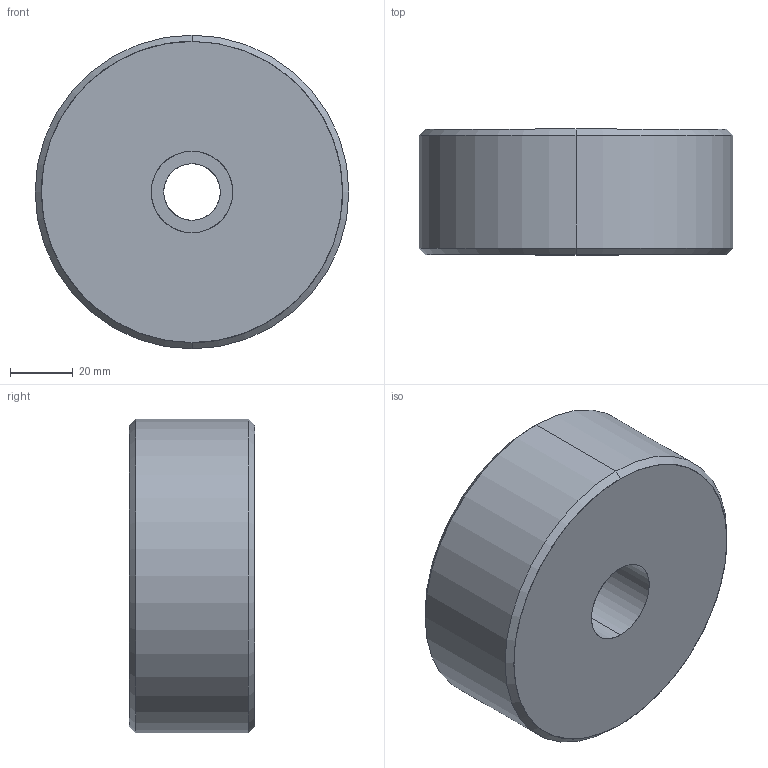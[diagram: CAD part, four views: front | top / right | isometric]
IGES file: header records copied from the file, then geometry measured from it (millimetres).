
Start section: START RECORD GO HERE.
Global section: file name: 758+100+40+20.igs; native system: DASSAULT SYSTEMES CATIA V5 R20 - www.3ds.com; preprocessor: CATIA Version 5 Release 20 ; author: Utente; organization: NB04-ASUS; date: 20201028.203047; units: millimetre
Bounding box: 100 x 40 x 100 mm (x, y, z)
Surface area: 29783.5 mm2 (no closed solid volume)
Topology: 0 solids, 0 shells, 13 faces, 52 edges, 52 vertices
Faces by surface type: revolution 10, plane 3
